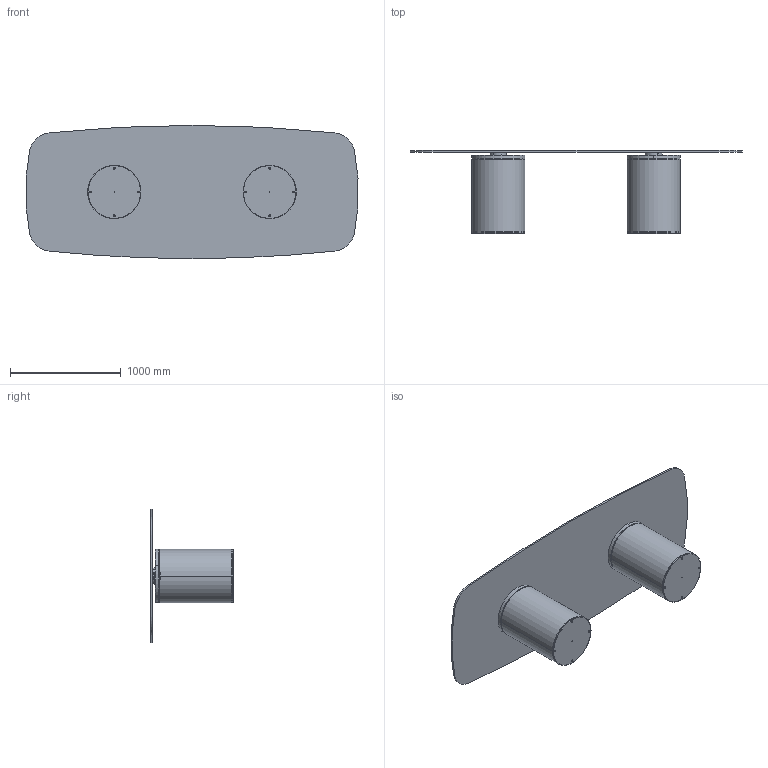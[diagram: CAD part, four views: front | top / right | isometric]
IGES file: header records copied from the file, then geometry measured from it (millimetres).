
Start section: SolidWorks IGES file using analytic representation for surfaces
Global section: file name: Y:\eforma\TECNICO\SOLIDWORKS\E-FORMA\1-TAVOLI\CILINDRO\02 parts\CI44G.IGS; native system: SolidWorks 2022; preprocessor: SolidWorks 2022; author: eforma.tech; date: 240808.085139; units: millimetre
Bounding box: 2991.72 x 747 x 1200 mm (x, y, z)
Volume: 73114221.4 mm3; surface area: 13353776.5 mm2
Topology: 37 solids, 37 shells, 957 faces, 2255 edges, 1344 vertices
Faces by surface type: revolution 609, plane 330, bspline 18
